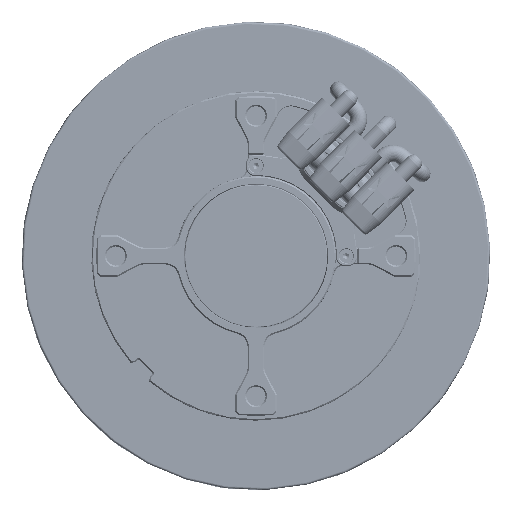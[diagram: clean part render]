
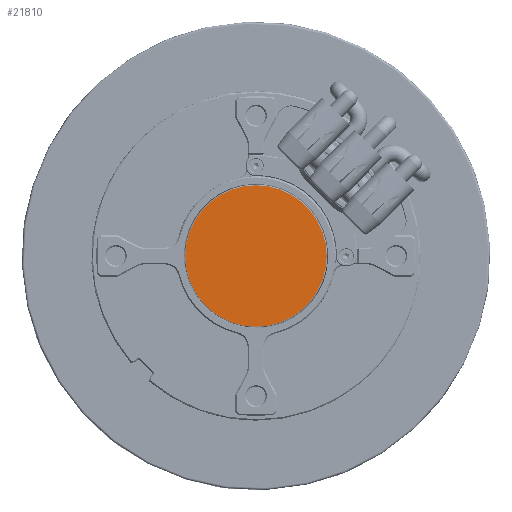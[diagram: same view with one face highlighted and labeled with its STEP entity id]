
A CAD part, front view. The second image highlights one B-rep face of the part: STEP entity #21810.
In plain terms, the highlighted planar face has unit normal (0, -1, 0).
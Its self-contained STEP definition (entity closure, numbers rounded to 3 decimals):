
#5366 = DIRECTION ( 'NONE',  ( 0., 0., -1. ) ) ;
#8651 = DIRECTION ( 'NONE',  ( 0., -1., 0. ) ) ;
#21661 = EDGE_LOOP ( 'NONE', ( #72578, #95183 ) ) ;
#21810 = ADVANCED_FACE ( 'NONE', ( #214566 ), #182162, .F. ) ;
#31497 = CARTESIAN_POINT ( 'NONE',  ( 0., 0.1, 0. ) ) ;
#42708 = DIRECTION ( 'NONE',  ( 0., -1., 0. ) ) ;
#44537 = EDGE_CURVE ( 'NONE', #154853, #210894, #51273, .T. ) ;
#44896 = DIRECTION ( 'NONE',  ( 0., 0., -1. ) ) ;
#51273 = CIRCLE ( 'NONE', #101179, 25.2 ) ;
#55537 = EDGE_CURVE ( 'NONE', #210894, #154853, #88751, .T. ) ;
#72578 = ORIENTED_EDGE ( 'NONE', *, *, #55537, .T. ) ;
#88751 = CIRCLE ( 'NONE', #206389, 25.2 ) ;
#94073 = CARTESIAN_POINT ( 'NONE',  ( 0., 0.1, 0. ) ) ;
#95183 = ORIENTED_EDGE ( 'NONE', *, *, #44537, .T. ) ;
#101179 = AXIS2_PLACEMENT_3D ( 'NONE', #94073, #42708, #44896 ) ;
#131897 = DIRECTION ( 'NONE',  ( 0., 1., 0. ) ) ;
#133744 = CARTESIAN_POINT ( 'NONE',  ( 0., 0.1, -25.2 ) ) ;
#147531 = CARTESIAN_POINT ( 'NONE',  ( 0., 0.1, 0. ) ) ;
#153896 = AXIS2_PLACEMENT_3D ( 'NONE', #147531, #131897, #197816 ) ;
#154853 = VERTEX_POINT ( 'NONE', #159133 ) ;
#159133 = CARTESIAN_POINT ( 'NONE',  ( 0., 0.1, 25.2 ) ) ;
#182162 = PLANE ( 'NONE',  #153896 ) ;
#197816 = DIRECTION ( 'NONE',  ( 1., 0., 0. ) ) ;
#206389 = AXIS2_PLACEMENT_3D ( 'NONE', #31497, #8651, #5366 ) ;
#210894 = VERTEX_POINT ( 'NONE', #133744 ) ;
#214566 = FACE_OUTER_BOUND ( 'NONE', #21661, .T. ) ;
